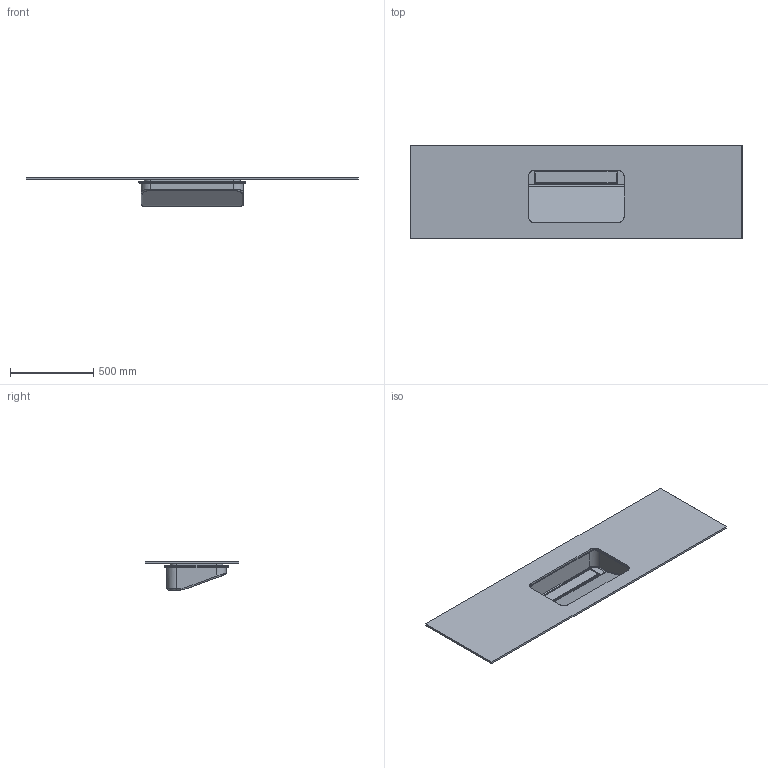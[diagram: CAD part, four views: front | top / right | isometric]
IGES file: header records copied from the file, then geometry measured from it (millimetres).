
Global section: file name: D:\Desktop\GIOVANNI\SCHEDE PRODOTTO\PIANI LAVABO\VERSUS\3D\MOMA DESIGN_PIANI LAVABO_VERSUS MODULE.igs; native system: Rhinoceros ( Jan 17 2018 ); preprocessor: Trout Lake IGES 012 Jan 17 2018; date: 230607.120834; units: millimetre
Bounding box: 1999.9 x 564.29 x 169 mm (x, y, z)
Surface area: 2971966 mm2 (no closed solid volume)
Topology: 0 solids, 0 shells, 126 faces, 1355 edges, 1352 vertices
Faces by surface type: bspline 126
